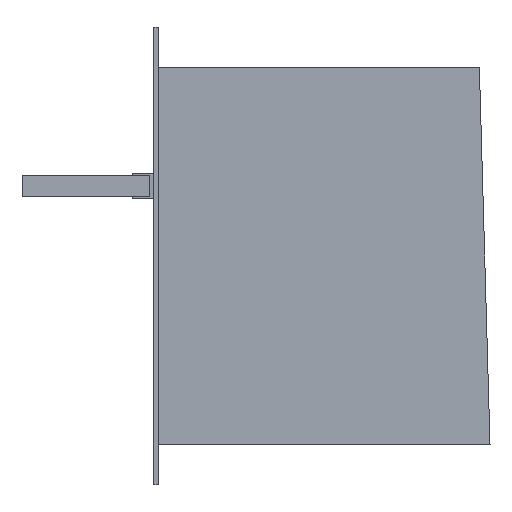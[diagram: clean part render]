
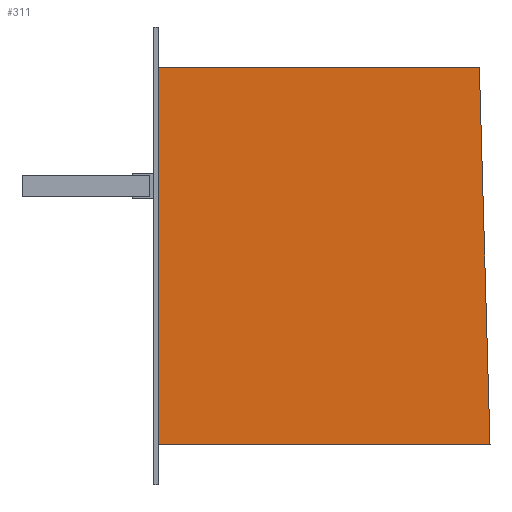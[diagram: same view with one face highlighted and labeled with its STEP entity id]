
A CAD part, left-side view. The second image highlights one B-rep face of the part: STEP entity #311.
In plain terms, the highlighted planar face has unit normal (-1, 0, 0).
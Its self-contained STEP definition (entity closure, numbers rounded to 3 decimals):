
#89 = VECTOR ( 'NONE', #573, 1000. ) ;
#139 = EDGE_CURVE ( 'NONE', #1633, #505, #1780, .T. ) ;
#192 = DIRECTION ( 'NONE',  ( 1., 0., 0. ) ) ;
#252 = CARTESIAN_POINT ( 'NONE',  ( -641., 0., -88.5 ) ) ;
#311 = ADVANCED_FACE ( 'NONE', ( #342 ), #1391, .F. ) ;
#341 = EDGE_LOOP ( 'NONE', ( #447, #1227, #665, #949 ) ) ;
#342 = FACE_OUTER_BOUND ( 'NONE', #341, .T. ) ;
#384 = LINE ( 'NONE', #1444, #1093 ) ;
#447 = ORIENTED_EDGE ( 'NONE', *, *, #139, .T. ) ;
#493 = VECTOR ( 'NONE', #1302, 1000. ) ;
#505 = VERTEX_POINT ( 'NONE', #687 ) ;
#541 = EDGE_CURVE ( 'NONE', #1685, #1609, #1930, .T. ) ;
#571 = LINE ( 'NONE', #1455, #1570 ) ;
#573 = DIRECTION ( 'NONE',  ( 0., 1., 0. ) ) ;
#665 = ORIENTED_EDGE ( 'NONE', *, *, #541, .T. ) ;
#687 = CARTESIAN_POINT ( 'NONE',  ( -641., -156., -88.5 ) ) ;
#926 = CARTESIAN_POINT ( 'NONE',  ( -641., 2., 107.5 ) ) ;
#949 = ORIENTED_EDGE ( 'NONE', *, *, #952, .T. ) ;
#952 = EDGE_CURVE ( 'NONE', #1609, #1633, #571, .T. ) ;
#955 = CARTESIAN_POINT ( 'NONE',  ( -641., -151., 88.5 ) ) ;
#995 = DIRECTION ( 'NONE',  ( 0., 0., -1. ) ) ;
#1015 = CARTESIAN_POINT ( 'NONE',  ( -641., 0., 88.5 ) ) ;
#1072 = CARTESIAN_POINT ( 'NONE',  ( -641., 0., 88.5 ) ) ;
#1093 = VECTOR ( 'NONE', #1425, 1000. ) ;
#1227 = ORIENTED_EDGE ( 'NONE', *, *, #1772, .T. ) ;
#1302 = DIRECTION ( 'NONE',  ( 0., -1., 0. ) ) ;
#1369 = DIRECTION ( 'NONE',  ( 0., 0., -1. ) ) ;
#1374 = CARTESIAN_POINT ( 'NONE',  ( -641., 0., -88.5 ) ) ;
#1391 = PLANE ( 'NONE',  #1627 ) ;
#1425 = DIRECTION ( 'NONE',  ( 0., 0.028, 1. ) ) ;
#1444 = CARTESIAN_POINT ( 'NONE',  ( -641., -151., 88.5 ) ) ;
#1455 = CARTESIAN_POINT ( 'NONE',  ( -641., 0., 88.5 ) ) ;
#1570 = VECTOR ( 'NONE', #995, 1000. ) ;
#1609 = VERTEX_POINT ( 'NONE', #1072 ) ;
#1627 = AXIS2_PLACEMENT_3D ( 'NONE', #926, #192, #1369 ) ;
#1633 = VERTEX_POINT ( 'NONE', #1374 ) ;
#1685 = VERTEX_POINT ( 'NONE', #955 ) ;
#1772 = EDGE_CURVE ( 'NONE', #505, #1685, #384, .T. ) ;
#1780 = LINE ( 'NONE', #252, #493 ) ;
#1930 = LINE ( 'NONE', #1015, #89 ) ;
